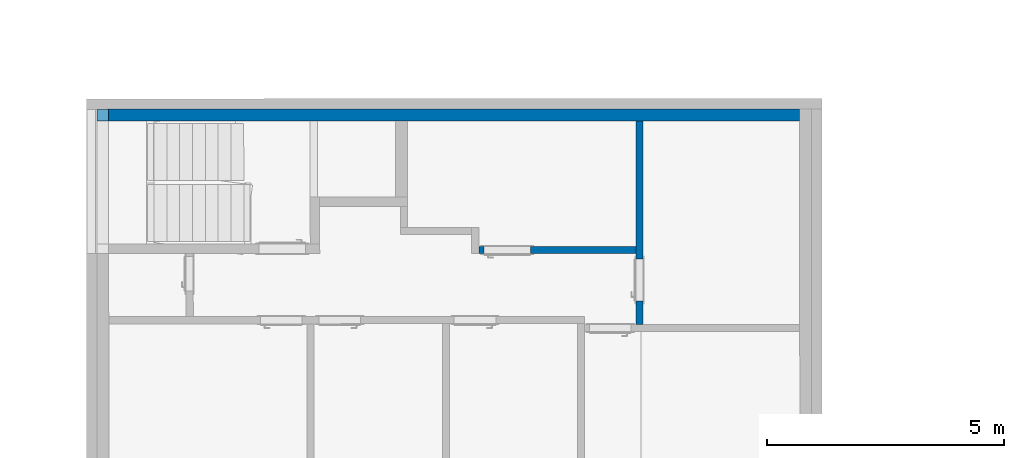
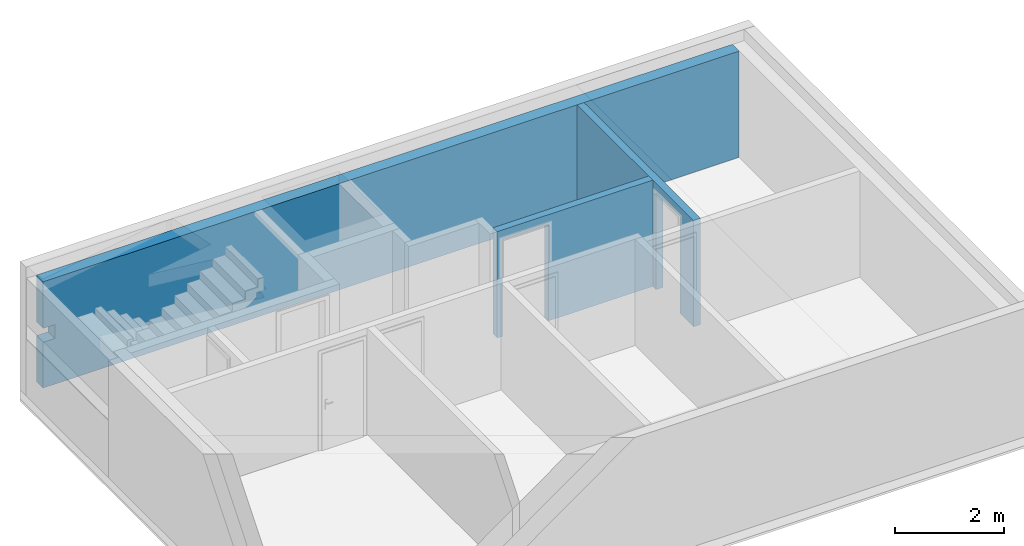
# One storey, part 2 of 9: 3 walls, 2 openings.
"""IFC2X3 building model written with IfcOpenShell, lengths in metres."""

import ifcopenshell
import ifcopenshell.guid

model = None  # the IFC model being written
_history = None  # IfcOwnerHistory: only IFC2X3 demands one
_inside = {}  # id of a spatial element -> (the spatial element, [elements in it])
_under = {}  # id of a project, library or spatial element -> (it, [spatial elements below it])
_declared = {}  # id of a project -> (the project, [libraries it declares])
_typed = {}  # id of a type object -> (the type object, [elements of that type])
_made_of = {}  # id of a material, layer set ... -> (it, [elements and type objects made of it])


def new_model(schema):
    """Start an empty IFC model of exactly this schema.

    Asked for "IFC4X3", IfcOpenShell would pick the latest addendum, in which some entities
    have other attributes; the version numbers below select the first issue.
    IFC2X3 requires an IfcOwnerHistory on every rooted entity: one is made here for all.
    """
    global model, _history
    if schema == "IFC4X3":
        model = ifcopenshell.file(schema_version=(4, 3, 0, 0))
    else:
        model = ifcopenshell.file(schema=schema)
    _inside.clear()
    _under.clear()
    _declared.clear()
    _typed.clear()
    _made_of.clear()
    _history = None
    if model.schema == "IFC2X3":
        org = make("IfcOrganization", Name="unknown")
        user = make(
            "IfcPersonAndOrganization",
            ThePerson=make("IfcPerson", FamilyName="unknown"),
            TheOrganization=org,
        )
        app = make(
            "IfcApplication",
            ApplicationDeveloper=org,
            Version="unknown",
            ApplicationFullName="unknown",
            ApplicationIdentifier="unknown",
        )
        _history = make(
            "IfcOwnerHistory",
            OwningUser=user,
            OwningApplication=app,
            ChangeAction="ADDED",
            CreationDate=0,
        )
    return model


def make(cls, **values):
    """One entity of the class cls with the attributes given. An attribute that is None is left unset."""
    return model.create_entity(
        cls, **{name: value for name, value in values.items() if value is not None}
    )


def entity(cls, *values):
    """Any entity or typed value of the class cls, its attributes in the order of the schema. None: left unset."""
    e = model.create_entity(cls)
    for i, value in enumerate(values):
        if value is not None:
            e[i] = value
    return e


def rooted(cls, **values):
    """An entity with a GlobalId (a new one), such as an element, a storey or a relation."""
    return make(cls, GlobalId=ifcopenshell.guid.new(), OwnerHistory=_history, **values)


def si_unit(unit_type, name, prefix=None):
    """IfcSIUnit, for example si_unit("LENGTHUNIT", "METRE", prefix="MILLI")."""
    return make("IfcSIUnit", UnitType=unit_type, Prefix=prefix, Name=name)


def converted_unit(unit_type, name, factor, base, dimensions=None, offset=None):
    """IfcConversionBasedUnit, such as the inch: factor (a typed value) times the base unit."""
    return make(
        "IfcConversionBasedUnit"
        if offset is None
        else "IfcConversionBasedUnitWithOffset",
        ConversionOffset=offset,
        Dimensions=None
        if dimensions is None
        else entity("IfcDimensionalExponents", *dimensions),
        UnitType=unit_type,
        Name=name,
        ConversionFactor=make(
            "IfcMeasureWithUnit", ValueComponent=factor, UnitComponent=base
        ),
    )


def derived_unit(unit_type, elements):
    """IfcDerivedUnit: a product of units, each with its exponent."""
    return make(
        "IfcDerivedUnit",
        Elements=[
            make("IfcDerivedUnitElement", Unit=unit, Exponent=power)
            for unit, power in elements
        ],
        UnitType=unit_type,
    )


def assignment(units):
    """IfcUnitAssignment: the units of a project."""
    return None if units is None else make("IfcUnitAssignment", Units=units)


def point(xyz):
    """IfcCartesianPoint."""
    return None if xyz is None else make("IfcCartesianPoint", Coordinates=xyz)


def direction(xyz):
    """IfcDirection."""
    return None if xyz is None else make("IfcDirection", DirectionRatios=xyz)


def frame(location, z_axis=None, x_axis=None):
    """IfcAxis2Placement3D, a coordinate frame: its origin and axes. An axis left out is left unset."""
    return make(
        "IfcAxis2Placement3D",
        Location=point(location),
        Axis=direction(z_axis),
        RefDirection=direction(x_axis),
    )


def origin():
    """The frame at (0, 0, 0) with its axes left unset."""
    return frame((0.0, 0.0, 0.0))


def place(relative_to, where):
    """IfcLocalPlacement: puts the frame where relative to a parent placement (None: the world)."""
    return make(
        "IfcLocalPlacement", PlacementRelTo=relative_to, RelativePlacement=where
    )


def context(
    kind, dimensions, precision=None, world=None, true_north=None, identifier=None
):
    """IfcGeometricRepresentationContext, for example the 3D "Model" context."""
    return make(
        "IfcGeometricRepresentationContext",
        ContextIdentifier=identifier,
        ContextType=kind,
        CoordinateSpaceDimension=dimensions,
        Precision=precision,
        WorldCoordinateSystem=world,
        TrueNorth=true_north,
    )


def subcontext(parent, identifier, kind, view, scale=None):
    """IfcGeometricRepresentationSubContext, for example "Body" below "Model"."""
    return make(
        "IfcGeometricRepresentationSubContext",
        ContextIdentifier=identifier,
        ContextType=kind,
        ParentContext=parent,
        TargetScale=scale,
        TargetView=view,
    )


def project(units=None, contexts=None):
    """IfcProject with its units and contexts."""
    return rooted(
        "IfcProject",
        Name="project",
        RepresentationContexts=contexts,
        UnitsInContext=assignment(units),
    )


def spatial(cls, under=None, at=None, **own):
    """A site, building, storey or space (cls), placed at a placement, below another one or the project."""
    s = rooted(cls, ObjectPlacement=at, **own)
    if under is not None:
        _under.setdefault(under.id(), (under, []))[1].append(s)
    return s


def faces_of(points, faces, orient=None, outer=None):
    """IfcFace entities. A face is a list of loops; a loop is a list of indices into points, from 0.

    orient and outer hold one flag for each loop. By default every Orientation is true, the
    first loop of a face is its IfcFaceOuterBound and the others are IfcFaceBound.
    """
    made = []
    for i, loops in enumerate(faces):
        bounds = []
        for j, loop in enumerate(loops):
            is_outer = j == 0 if outer is None else outer[i][j]
            bounds.append(
                make(
                    "IfcFaceOuterBound" if is_outer else "IfcFaceBound",
                    Bound=make("IfcPolyLoop", Polygon=[points[k] for k in loop]),
                    Orientation=True if orient is None else orient[i][j],
                )
            )
        made.append(make("IfcFace", Bounds=bounds))
    return made


def faceted_brep(points, faces, orient=None, outer=None, voids=None):
    """IfcFacetedBrep: a solid bounded by flat faces; with voids (closed shells), ...WithVoids."""
    shared = [point(p) for p in points]
    hull = make("IfcClosedShell", CfsFaces=faces_of(shared, faces, orient, outer))
    if voids is None:
        return make("IfcFacetedBrep", Outer=hull)
    return make(
        "IfcFacetedBrepWithVoids",
        Outer=hull,
        Voids=[
            make(cls, CfsFaces=faces_of(shared, fs, o, b)) for cls, fs, o, b in voids
        ],
    )


def shape(context_of_items, identifier, shape_type, items):
    """IfcShapeRepresentation: the items that make up one representation, for example the "Body"."""
    return make(
        "IfcShapeRepresentation",
        ContextOfItems=context_of_items,
        RepresentationIdentifier=identifier,
        RepresentationType=shape_type,
        Items=items,
    )


def material(Name=None, Category=None):
    """IfcMaterial."""
    return make("IfcMaterial", Name=Name, Category=Category)


def made_of(thing, what):
    """Note that an element or type object is made of a material, layer set ...; save() writes the relation."""
    if what is not None:
        _made_of.setdefault(what.id(), (what, []))[1].append(thing)
    return thing


def element(
    cls,
    number,
    at=None,
    inside=None,
    cuts=None,
    type_object=None,
    material=None,
    context=None,
    identifier="Body",
    shape_type=None,
    held_by="IfcProductDefinitionShape",
    body=None,
    shapes=None,
    **own,
):
    """One element of the class cls, such as IfcWall. Its Tag is "e" and its number.

    at: its placement. inside: the storey or other place that contains it. cuts: it is an
    opening in that element (IfcRelVoidsElement). A single representation is given by context,
    identifier, shape_type and body (its items); several are given by shapes. held_by: the class
    of the entity that holds the representations. save() writes the other relations.
    """
    e = rooted(cls, Tag="e%d" % number, ObjectPlacement=at, **own)
    if body is not None:
        shapes = [shape(context, identifier, shape_type, body)]
    if shapes is not None:
        e.Representation = make(held_by, Representations=shapes)
    if inside is not None:
        _inside.setdefault(inside.id(), (inside, []))[1].append(e)
    if cuts is not None:
        rooted(
            "IfcRelVoidsElement", RelatingBuildingElement=cuts, RelatedOpeningElement=e
        )
    if type_object is not None:
        _typed.setdefault(type_object.id(), (type_object, []))[1].append(e)
    return made_of(e, material)


def aggregate(whole, parts):
    """IfcRelAggregates: a whole, such as a stair, and the parts it consists of."""
    return rooted("IfcRelAggregates", RelatingObject=whole, RelatedObjects=parts)


def save(model, path):
    """Write the relations noted so far, then the file.

    IfcRelAggregates (storeys below a building ...), IfcRelContainedInSpatialStructure (elements
    in a storey), IfcRelDefinesByType, IfcRelAssociatesMaterial and IfcRelDeclares: one each for
    every whole, place, type object, material and project.
    """
    for whole, parts in _under.values():
        aggregate(whole, parts)
    for where, things in _inside.values():
        rooted(
            "IfcRelContainedInSpatialStructure",
            RelatedElements=things,
            RelatingStructure=where,
        )
    for kind, things in _typed.values():
        rooted("IfcRelDefinesByType", RelatedObjects=things, RelatingType=kind)
    for what, things in _made_of.values():
        rooted("IfcRelAssociatesMaterial", RelatedObjects=things, RelatingMaterial=what)
    for by, libraries in _declared.values():
        rooted("IfcRelDeclares", RelatingContext=by, RelatedDefinitions=libraries)
    model.write(path)


model = new_model("IFC2X3")

# Units and contexts
model_context = context("Model", 3, precision=1e-05, world=origin(), true_north=direction((0.772621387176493, -0.634867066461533)))
body_context = subcontext(model_context, "Body", "Model", "MODEL_VIEW")
ifc_project = project(units=[si_unit("LENGTHUNIT", "METRE"), si_unit("AREAUNIT", "SQUARE_METRE"), si_unit("VOLUMEUNIT", "CUBIC_METRE"), si_unit("MASSUNIT", "GRAM", prefix="KILO"), converted_unit("PLANEANGLEUNIT", "DEGREE", entity("IfcPlaneAngleMeasure", 0.0174532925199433), si_unit("PLANEANGLEUNIT", "RADIAN"), dimensions=[0, 0, 0, 0, 0, 0, 0]), derived_unit("THERMALTRANSMITTANCEUNIT", [(si_unit("POWERUNIT", "WATT"), 1), (si_unit("THERMODYNAMICTEMPERATUREUNIT", "KELVIN"), -1), (si_unit("LENGTHUNIT", "METRE"), -2)]), derived_unit("VOLUMETRICFLOWRATEUNIT", [(si_unit("LENGTHUNIT", "METRE"), 3), (converted_unit("TIMEUNIT", "hour", entity("IfcTimeMeasure", 3600.0), si_unit("TIMEUNIT", "SECOND"), dimensions=[0, 0, 1, 0, 0, 0, 0]), -1), (si_unit("LENGTHUNIT", "METRE"), -1)])], contexts=[model_context])

# Site, building, storey
site_placement = place(None, origin())
site = spatial("IfcSite", under=ifc_project, at=site_placement, Name="Modelle auf dem Nullpunkt", CompositionType="ELEMENT")
building_placement = place(site_placement, origin())
building = spatial("IfcBuilding", under=site, at=building_placement, Name="I", CompositionType="ELEMENT")
storey_placement = place(building_placement, origin())
storey = spatial("IfcBuildingStorey", under=building, at=storey_placement, Name="UG", CompositionType="ELEMENT", Elevation=0.0)

# Wall, opening
ifc_material_1 = material(Name="Brique silico-calcaire")
wall_1_placement = place(storey_placement, frame((40.9220177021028, -2.34930115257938, 433.22)))
wall_1 = element("IfcWall", 1, at=wall_1_placement, inside=storey, material=ifc_material_1, context=body_context, shape_type="Brep", body=[
    faceted_brep([(0.151516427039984, 5.30222578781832e-05, 0.0), (0.00151643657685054, 0.0, 0.0), (0.00151643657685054, 0.0, 2.39), (0.151516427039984, 5.30222578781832e-05, 2.39), (0.0, 4.28999973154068, 0.0), (0.0, 4.28999973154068, 2.39), (0.14999999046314, 4.29005275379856, 0.0), (0.14999999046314, 4.29005275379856, 2.39)], [[[0, 1, 2, 3]], [[1, 4, 5, 2]], [[4, 6, 7, 5]], [[6, 0, 3, 7]], [[3, 2, 5, 7]], [[0, 6, 4, 1]]], orient=[[False], [False], [False], [False], [False], [False]]),
])
opening_1_placement = place(wall_1_placement, frame((0.00102863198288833, 0.499999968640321, 0.0)))
element("IfcOpeningElement", 2, at=opening_1_placement, cuts=wall_1, ObjectType="Opening", context=body_context, shape_type="Brep", body=[
    faceted_brep([(0.150311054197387, 5.30221462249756e-05, 0.0), (0.150311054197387, 5.30221462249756e-05, 2.17), (0.149999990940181, 0.880052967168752, 2.17), (0.149999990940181, 0.880052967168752, 0.0), (0.000311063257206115, 0.0, 0.0), (0.0, 0.879999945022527, 0.0), (0.0, 0.879999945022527, 2.17), (0.000311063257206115, 0.0, 2.17)], [[[0, 1, 2, 3]], [[4, 5, 6, 7]], [[3, 5, 4, 0]], [[2, 6, 5, 3]], [[1, 7, 6, 2]], [[0, 4, 7, 1]]], orient=[[False], [False], [False], [False], [False], [False]]),
])

# Wall
ifc_material_2 = material(Name="Béton")
wall_2_placement = place(storey_placement, frame((29.566930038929, 1.93668479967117, 433.22)))
element("IfcWall", 3, at=wall_2_placement, inside=storey, material=ifc_material_2, Name="Betonwand", context=body_context, shape_type="Brep", body=[
    faceted_brep([(14.8050874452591, 0.00523329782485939, 0.0), (14.8049990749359, 0.255233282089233, 0.0), (0.0, 0.249999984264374, 0.0), (8.83703231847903e-05, 0.0, 0.0), (14.8049990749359, 0.255233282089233, 2.39), (14.8050874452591, 0.00523329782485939, 2.39), (8.83703231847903e-05, 0.0, 2.39), (0.0, 0.249999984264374, 2.39), (0.249999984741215, 0.250088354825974, 1.34), (0.249999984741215, 0.250088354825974, 1.03), (0.0, 0.249999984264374, 1.03), (0.0, 0.249999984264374, 1.34), (8.83703231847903e-05, 0.0, 1.03), (8.83703231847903e-05, 0.0, 1.34), (0.250088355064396, 8.83705615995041e-05, 1.03), (0.250088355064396, 8.83705615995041e-05, 1.34)], [[[0, 1, 2, 3]], [[4, 5, 6, 7]], [[1, 0, 5, 4]], [[8, 9, 10, 2, 1, 4, 7, 11]], [[12, 3, 2, 10]], [[13, 6, 5, 0, 3, 12, 14, 15]], [[11, 7, 6, 13]], [[14, 12, 10, 9]], [[8, 11, 13, 15]], [[15, 14, 9, 8]]], orient=[[False], [False], [False], [False], [False], [False], [False], [False], [False], [False]]),
])

# Wall, opening
ifc_material_3 = material(Name="Brique silico-calcaire")
wall_3_placement = place(storey_placement, frame((37.6129510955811, -0.850471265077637, 433.22)))
wall_3 = element("IfcWall", 4, at=wall_3_placement, inside=storey, material=ifc_material_3, context=body_context, shape_type="Brep", body=[
    faceted_brep([(3.30999979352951, 0.151170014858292, 0.0), (3.310052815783, 0.00117002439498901, 0.0), (3.310052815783, 0.00117002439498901, 2.39), (3.30999979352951, 0.151170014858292, 2.39), (5.30222534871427e-05, 0.0, 0.0), (5.30222534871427e-05, 0.0, 2.39), (0.0, 0.149999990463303, 0.0), (0.0, 0.149999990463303, 2.39)], [[[0, 1, 2, 3]], [[1, 4, 5, 2]], [[4, 6, 7, 5]], [[6, 0, 3, 7]], [[3, 2, 5, 7]], [[0, 6, 4, 1]]], orient=[[False], [False], [False], [False], [False], [False]]),
])
opening_2_placement = place(wall_3_placement, frame((0.10999999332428, 3.88827324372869e-05, 0.0)))
element("IfcOpeningElement", 5, at=opening_2_placement, cuts=wall_3, ObjectType="Opening", context=body_context, shape_type="Brep", body=[
    faceted_brep([(0.98005296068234, 0.000346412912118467, 0.0), (5.30223846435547e-05, 0.0, 0.0), (5.30223846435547e-05, 0.0, 2.17), (0.98005296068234, 0.000346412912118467, 2.17), (0.979999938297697, 0.150346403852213, 0.0), (0.979999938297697, 0.150346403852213, 2.17), (0.0, 0.149999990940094, 2.17), (0.0, 0.149999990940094, 0.0)], [[[0, 1, 2, 3]], [[4, 5, 6, 7]], [[1, 0, 4, 7]], [[2, 1, 7, 6]], [[3, 2, 6, 5]], [[0, 3, 5, 4]]], orient=[[False], [False], [False], [False], [False], [False]]),
])

save(model, "model.ifc")
